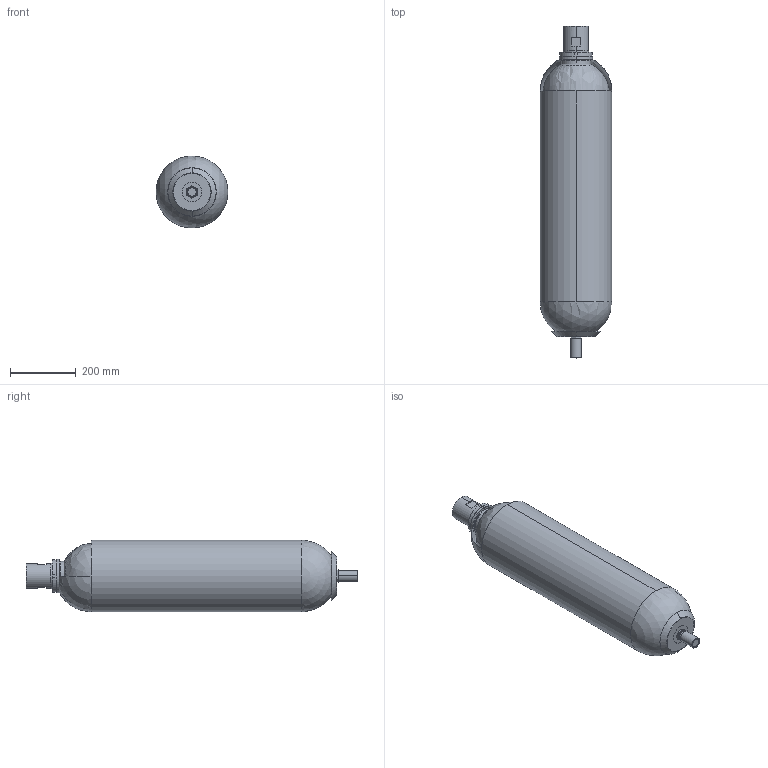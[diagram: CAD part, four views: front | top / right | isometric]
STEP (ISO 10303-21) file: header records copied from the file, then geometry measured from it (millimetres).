
FILE_DESCRIPTION((''),'2;1');
FILE_NAME('EHV_24L5_330_90.stp','2011-02-28T16:58:46',(''),(''),'Mechanical Desktop 2009','Mechanical Desktop 2009',', , ');
FILE_SCHEMA(('CONFIG_CONTROL_DESIGN'));
Length unit declared in the file: millimetre
Products named in the file (73): DESSIN14; AD108372-01125; CA108362-00190; CA108362-00190A; PF108368-05200A; PF108368-05200; PF108368-05200|AVE_RENDER; PF108368-05200|AVE_GLOBAL; EC102958-00200A; EC102958-00200; BP102851-00200; BOUCHON DE PROTECTION; BOUCHON PLASTIQUE; BC110298-01720; BE105544-01700A; BE105544-01700; EC100990-01200A; EC100990-01200; BM110296-01700; CB110082-01700; CB110082-01700A; GABARIT; VE108380-00225; CS108389-00225; CV108365-00200A; CV108365-00200; CS108389-00025A; CS108389-00025; CI100115-00025; CI100115-00025A; VA108479-01626; VA108473-01626; VA108439-01600; VA108439-01600A; VA108439-01600|GABARIT; VA108437-01600; VA108437-01600A; VA108437-01600|GABARITMDT4; VA108437-01600|GABARIT; PI108438-01600A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
Assembly tree (28 placements, depth 6):
  DESSIN14
    AD108372-01125
      CA108362-00190
        CA108362-00190A
      PF108368-05200A
        PF108368-05200
        PF108368-05200|AVE_RENDER  x8
        PF108368-05200|AVE_GLOBAL
      EC102958-00200A
        EC102958-00200
      BP102851-00200
        BOUCHON DE PROTECTION
        BOUCHON PLASTIQUE
      BC110298-01720
        BE105544-01700A
          BE105544-01700
        EC100990-01200A
          EC100990-01200
        BM110296-01700
          CB110082-01700
            CB110082-01700A
    GABARIT
  VE108380-00225
  CS108389-00225
  CV108365-00200A
  CV108365-00200
Bounding box: 219.1 x 1012.2 x 219.1 mm (x, y, z)
Volume: 948572.8 mm3; surface area: 1353518.5 mm2
Topology: 8 solids, 8 shells, 207 faces, 495 edges, 301 vertices
Faces by surface type: cylinder 74, plane 53, cone 48, bspline 21, torus 8, sphere 3
Entity records: 8122 total; most frequent: CARTESIAN_POINT 1982, DIRECTION 1218, ORIENTED_EDGE 958, AXIS2_PLACEMENT_3D 522, EDGE_CURVE 479, VERTEX_POINT 297, CIRCLE 287, EDGE_LOOP 242
